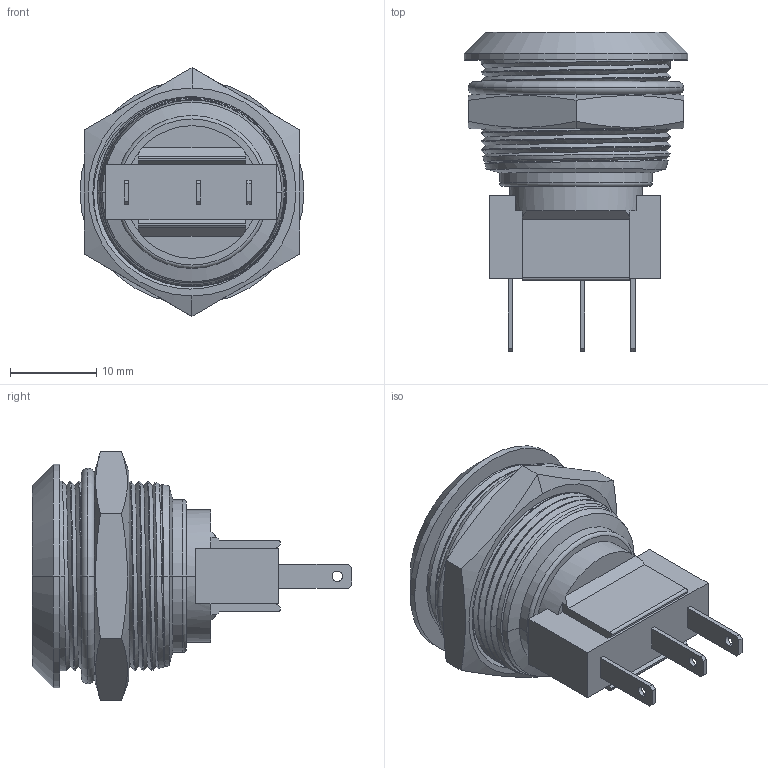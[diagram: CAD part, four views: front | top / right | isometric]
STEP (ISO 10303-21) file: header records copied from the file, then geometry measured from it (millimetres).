
FILE_DESCRIPTION((''),'2;1');
FILE_NAME('AV22LP404','2011-09-30T',('jlgachon'),(''),'PRO/ENGINEER BY PARAMETRIC TECHNOLOGY CORPORATION, 2010280','PRO/ENGINEER BY PARAMETRIC TECHNOLOGY CORPORATION, 2010280','');
FILE_SCHEMA(('CONFIG_CONTROL_DESIGN'));
Length unit declared in the file: millimetre
Products named in the file (1): AV22LP404
Bounding box: 26 x 37.1 x 28.87 mm (x, y, z)
Surface area: 4364.2 mm2 (no closed solid volume)
Topology: 0 solids, 7 shells, 117 faces, 339 edges, 232 vertices
Faces by surface type: plane 56, cylinder 35, cone 11, torus 8, bspline 7
Entity records: 8750 total; most frequent: CARTESIAN_POINT 5756, ORIENTED_EDGE 596, DIRECTION 560, EDGE_CURVE 339, VERTEX_POINT 232, AXIS2_PLACEMENT_3D 188, VECTOR 184, LINE 184
